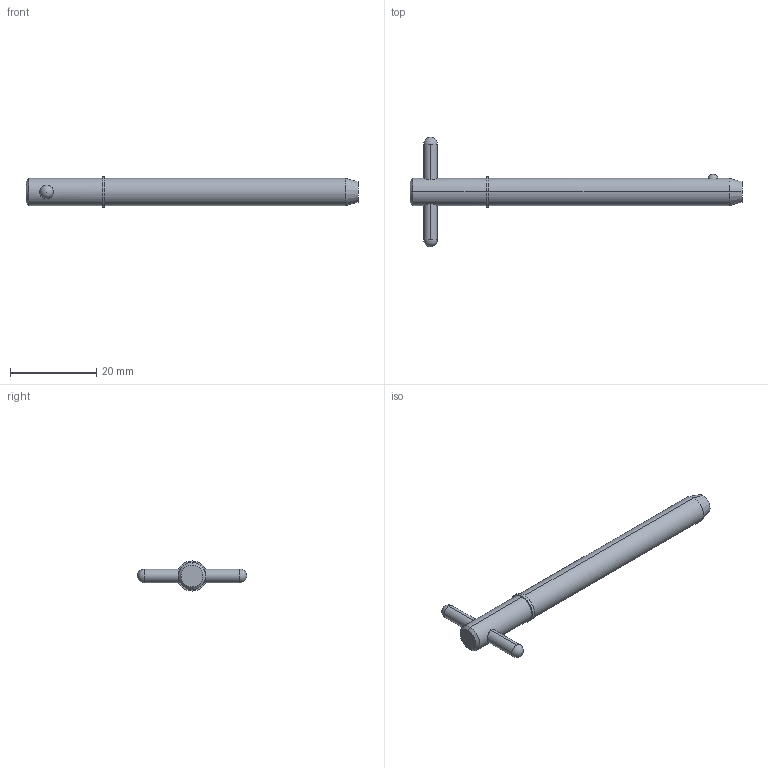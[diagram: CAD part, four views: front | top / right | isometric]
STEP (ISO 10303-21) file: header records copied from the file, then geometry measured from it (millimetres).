
FILE_DESCRIPTION (( 'STEP AP203' ), '1' );
FILE_NAME ('33018.W2520.step', '2024-11-19T17:08:21', ( '' ), ( '' ), 'SwSTEP 2.0', 'SolidWorks 2019', '' );
FILE_SCHEMA (( 'CONFIG_CONTROL_DESIGN' ));
Length unit declared in the file: millimetre
Products named in the file (3): Part2_33018.W2520; Part1_33018.W2520; 33018.W2520
Assembly tree (2 placements, depth 2):
  33018.W2520
    Part1_33018.W2520
    Part2_33018.W2520
Bounding box: 77.01 x 25.4 x 6.99 mm (x, y, z)
Volume: 2564.1 mm3; surface area: 1885.8 mm2
Topology: 2 solids, 2 shells, 22 faces, 47 edges, 30 vertices
Faces by surface type: cylinder 10, sphere 4, cone 4, plane 4
Entity records: 993 total; most frequent: CARTESIAN_POINT 236, DIRECTION 110, ORIENTED_EDGE 82, AXIS2_PLACEMENT_3D 48, EDGE_CURVE 41, EDGE_LOOP 27, PERSON_AND_ORGANIZATION 26, VERTEX_POINT 26
